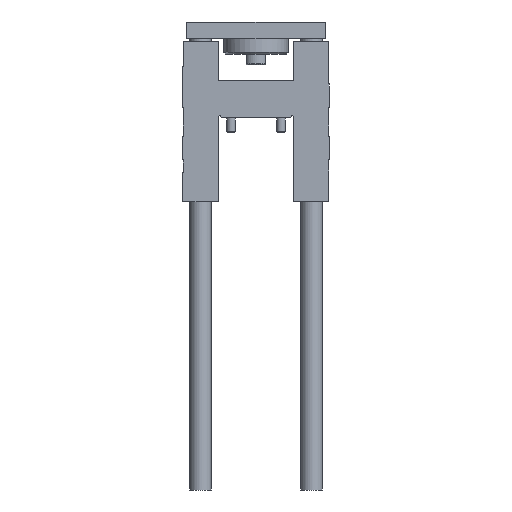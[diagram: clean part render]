
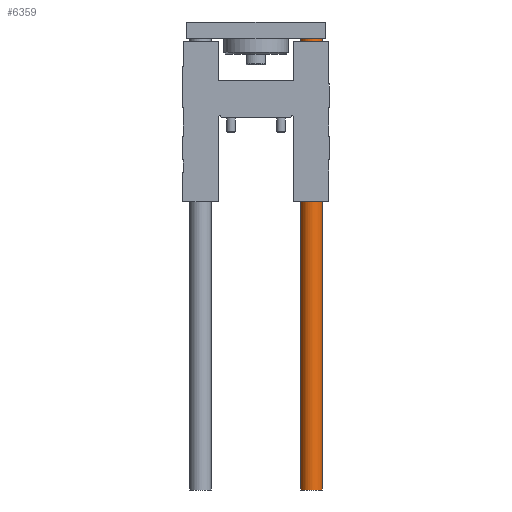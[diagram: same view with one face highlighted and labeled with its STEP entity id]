
A CAD part, front view. The second image highlights one B-rep face of the part: STEP entity #6359.
In plain terms, the highlighted cylindrical face has radius 10 mm (diameter 20 mm), a partial arc.
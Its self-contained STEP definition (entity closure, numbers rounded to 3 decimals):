
#52 = CARTESIAN_POINT ( 'NONE',  ( 52., 0., -349. ) ) ;
#74 = DIRECTION ( 'NONE',  ( 0., 0., -1. ) ) ;
#504 = VERTEX_POINT ( 'NONE', #8765 ) ;
#809 = CARTESIAN_POINT ( 'NONE',  ( 52., 0., -349. ) ) ;
#1054 = CARTESIAN_POINT ( 'NONE',  ( 62., 0., -349. ) ) ;
#1737 = EDGE_LOOP ( 'NONE', ( #5712, #3862, #2208, #7442 ) ) ;
#1799 = CYLINDRICAL_SURFACE ( 'NONE', #5508, 10. ) ;
#2192 = EDGE_CURVE ( 'NONE', #504, #10325, #9458, .T. ) ;
#2208 = ORIENTED_EDGE ( 'NONE', *, *, #5866, .T. ) ;
#2345 = CARTESIAN_POINT ( 'NONE',  ( 62., 0., 74. ) ) ;
#2564 = DIRECTION ( 'NONE',  ( 0., 0., -1. ) ) ;
#2750 = VECTOR ( 'NONE', #74, 1000. ) ;
#2781 = EDGE_CURVE ( 'NONE', #10325, #5117, #7583, .T. ) ;
#3330 = DIRECTION ( 'NONE',  ( 1., 0., 0. ) ) ;
#3862 = ORIENTED_EDGE ( 'NONE', *, *, #4398, .T. ) ;
#3969 = CARTESIAN_POINT ( 'NONE',  ( 62., 0., -349. ) ) ;
#4180 = DIRECTION ( 'NONE',  ( 0., 0., -1. ) ) ;
#4271 = DIRECTION ( 'NONE',  ( 0., 0., 1. ) ) ;
#4365 = AXIS2_PLACEMENT_3D ( 'NONE', #8044, #9756, #8921 ) ;
#4398 = EDGE_CURVE ( 'NONE', #504, #9955, #9750, .T. ) ;
#5117 = VERTEX_POINT ( 'NONE', #3969 ) ;
#5346 = AXIS2_PLACEMENT_3D ( 'NONE', #52, #4271, #10265 ) ;
#5508 = AXIS2_PLACEMENT_3D ( 'NONE', #809, #2564, #3330 ) ;
#5712 = ORIENTED_EDGE ( 'NONE', *, *, #2192, .F. ) ;
#5866 = EDGE_CURVE ( 'NONE', #9955, #5117, #8313, .T. ) ;
#6359 = ADVANCED_FACE ( 'NONE', ( #8326 ), #1799, .T. ) ;
#7442 = ORIENTED_EDGE ( 'NONE', *, *, #2781, .F. ) ;
#7583 = LINE ( 'NONE', #1054, #2750 ) ;
#8044 = CARTESIAN_POINT ( 'NONE',  ( 52., 0., 74. ) ) ;
#8313 = CIRCLE ( 'NONE', #5346, 10. ) ;
#8326 = FACE_OUTER_BOUND ( 'NONE', #1737, .T. ) ;
#8478 = VECTOR ( 'NONE', #4180, 1000. ) ;
#8765 = CARTESIAN_POINT ( 'NONE',  ( 42., 0., 74. ) ) ;
#8921 = DIRECTION ( 'NONE',  ( 1., 0., 0. ) ) ;
#9259 = CARTESIAN_POINT ( 'NONE',  ( 42., 0., -349. ) ) ;
#9458 = CIRCLE ( 'NONE', #4365, 10. ) ;
#9750 = LINE ( 'NONE', #10121, #8478 ) ;
#9756 = DIRECTION ( 'NONE',  ( 0., 0., 1. ) ) ;
#9955 = VERTEX_POINT ( 'NONE', #9259 ) ;
#10121 = CARTESIAN_POINT ( 'NONE',  ( 42., 0., -349. ) ) ;
#10265 = DIRECTION ( 'NONE',  ( 1., 0., 0. ) ) ;
#10325 = VERTEX_POINT ( 'NONE', #2345 ) ;
